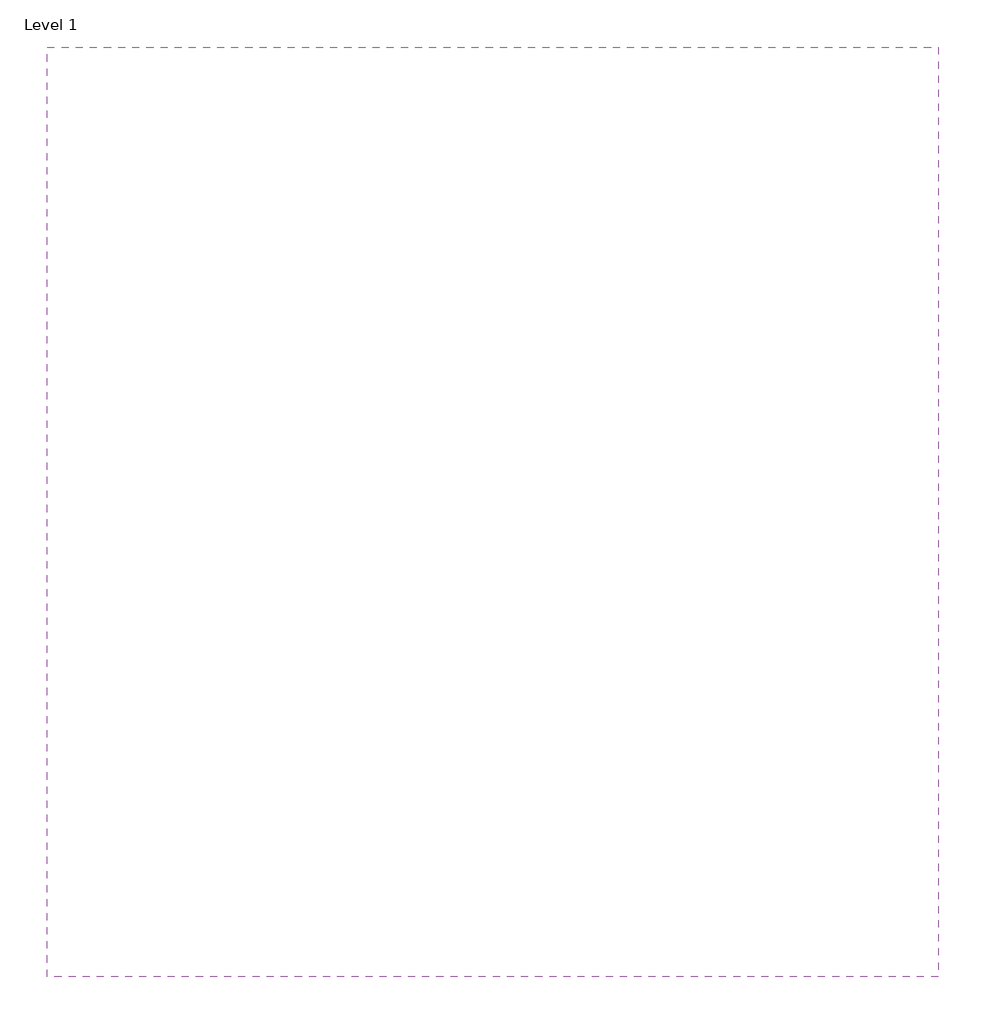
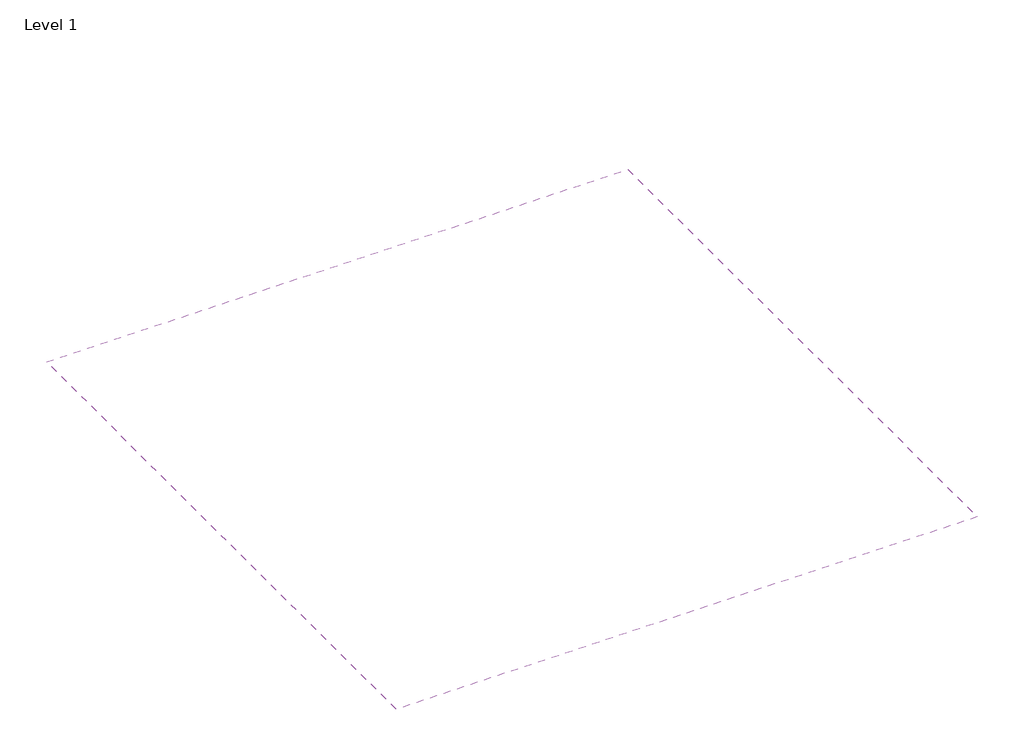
# One storey: 1 covering.
"""IFC4 building model written with IfcOpenShell, lengths in millimetres."""

import ifcopenshell
import ifcopenshell.guid

model = None  # the IFC model being written
_history = None  # IfcOwnerHistory: only IFC2X3 demands one
_inside = {}  # id of a spatial element -> (the spatial element, [elements in it])
_under = {}  # id of a project, library or spatial element -> (it, [spatial elements below it])
_declared = {}  # id of a project -> (the project, [libraries it declares])
_typed = {}  # id of a type object -> (the type object, [elements of that type])
_made_of = {}  # id of a material, layer set ... -> (it, [elements and type objects made of it])


def new_model(schema):
    """Start an empty IFC model of exactly this schema.

    Asked for "IFC4X3", IfcOpenShell would pick the latest addendum, in which some entities
    have other attributes; the version numbers below select the first issue.
    IFC2X3 requires an IfcOwnerHistory on every rooted entity: one is made here for all.
    """
    global model, _history
    if schema == "IFC4X3":
        model = ifcopenshell.file(schema_version=(4, 3, 0, 0))
    else:
        model = ifcopenshell.file(schema=schema)
    _inside.clear()
    _under.clear()
    _declared.clear()
    _typed.clear()
    _made_of.clear()
    _history = None
    if model.schema == "IFC2X3":
        org = make("IfcOrganization", Name="unknown")
        user = make(
            "IfcPersonAndOrganization",
            ThePerson=make("IfcPerson", FamilyName="unknown"),
            TheOrganization=org,
        )
        app = make(
            "IfcApplication",
            ApplicationDeveloper=org,
            Version="unknown",
            ApplicationFullName="unknown",
            ApplicationIdentifier="unknown",
        )
        _history = make(
            "IfcOwnerHistory",
            OwningUser=user,
            OwningApplication=app,
            ChangeAction="ADDED",
            CreationDate=0,
        )
    return model


def make(cls, **values):
    """One entity of the class cls with the attributes given. An attribute that is None is left unset."""
    return model.create_entity(
        cls, **{name: value for name, value in values.items() if value is not None}
    )


def rooted(cls, **values):
    """An entity with a GlobalId (a new one), such as an element, a storey or a relation."""
    return make(cls, GlobalId=ifcopenshell.guid.new(), OwnerHistory=_history, **values)


def si_unit(unit_type, name, prefix=None):
    """IfcSIUnit, for example si_unit("LENGTHUNIT", "METRE", prefix="MILLI")."""
    return make("IfcSIUnit", UnitType=unit_type, Prefix=prefix, Name=name)


def assignment(units):
    """IfcUnitAssignment: the units of a project."""
    return None if units is None else make("IfcUnitAssignment", Units=units)


def point(xyz):
    """IfcCartesianPoint."""
    return None if xyz is None else make("IfcCartesianPoint", Coordinates=xyz)


def direction(xyz):
    """IfcDirection."""
    return None if xyz is None else make("IfcDirection", DirectionRatios=xyz)


def frame(location, z_axis=None, x_axis=None):
    """IfcAxis2Placement3D, a coordinate frame: its origin and axes. An axis left out is left unset."""
    return make(
        "IfcAxis2Placement3D",
        Location=point(location),
        Axis=direction(z_axis),
        RefDirection=direction(x_axis),
    )


def origin():
    """The frame at (0, 0, 0) with its axes left unset."""
    return frame((0.0, 0.0, 0.0))


def place(relative_to, where):
    """IfcLocalPlacement: puts the frame where relative to a parent placement (None: the world)."""
    return make(
        "IfcLocalPlacement", PlacementRelTo=relative_to, RelativePlacement=where
    )


def context(
    kind, dimensions, precision=None, world=None, true_north=None, identifier=None
):
    """IfcGeometricRepresentationContext, for example the 3D "Model" context."""
    return make(
        "IfcGeometricRepresentationContext",
        ContextIdentifier=identifier,
        ContextType=kind,
        CoordinateSpaceDimension=dimensions,
        Precision=precision,
        WorldCoordinateSystem=world,
        TrueNorth=true_north,
    )


def project(units=None, contexts=None):
    """IfcProject with its units and contexts."""
    return rooted(
        "IfcProject",
        Name="project",
        RepresentationContexts=contexts,
        UnitsInContext=assignment(units),
    )


def spatial(cls, under=None, at=None, **own):
    """A site, building, storey or space (cls), placed at a placement, below another one or the project."""
    s = rooted(cls, ObjectPlacement=at, **own)
    if under is not None:
        _under.setdefault(under.id(), (under, []))[1].append(s)
    return s


def polyline(points):
    """IfcPolyline through the points."""
    return make("IfcPolyline", Points=[point(p) for p in points])


def outline(outer, holes=None, kind="AREA"):
    """IfcArbitraryClosedProfileDef: a profile drawn as a closed curve; with holes, ...WithVoids."""
    if holes is None:
        return make("IfcArbitraryClosedProfileDef", ProfileType=kind, OuterCurve=outer)
    return make(
        "IfcArbitraryProfileDefWithVoids",
        ProfileType=kind,
        OuterCurve=outer,
        InnerCurves=holes,
    )


def extrude(swept, where, along, depth):
    """IfcExtrudedAreaSolid: the profile swept, set in the frame where, extruded along a direction by depth."""
    return make(
        "IfcExtrudedAreaSolid",
        SweptArea=swept,
        Position=where,
        ExtrudedDirection=direction(along),
        Depth=depth,
    )


def shape(context_of_items, identifier, shape_type, items):
    """IfcShapeRepresentation: the items that make up one representation, for example the "Body"."""
    return make(
        "IfcShapeRepresentation",
        ContextOfItems=context_of_items,
        RepresentationIdentifier=identifier,
        RepresentationType=shape_type,
        Items=items,
    )


def made_of(thing, what):
    """Note that an element or type object is made of a material, layer set ...; save() writes the relation."""
    if what is not None:
        _made_of.setdefault(what.id(), (what, []))[1].append(thing)
    return thing


def element(
    cls,
    number,
    at=None,
    inside=None,
    cuts=None,
    type_object=None,
    material=None,
    context=None,
    identifier="Body",
    shape_type=None,
    held_by="IfcProductDefinitionShape",
    body=None,
    shapes=None,
    **own,
):
    """One element of the class cls, such as IfcWall. Its Tag is "e" and its number.

    at: its placement. inside: the storey or other place that contains it. cuts: it is an
    opening in that element (IfcRelVoidsElement). A single representation is given by context,
    identifier, shape_type and body (its items); several are given by shapes. held_by: the class
    of the entity that holds the representations. save() writes the other relations.
    """
    e = rooted(cls, Tag="e%d" % number, ObjectPlacement=at, **own)
    if body is not None:
        shapes = [shape(context, identifier, shape_type, body)]
    if shapes is not None:
        e.Representation = make(held_by, Representations=shapes)
    if inside is not None:
        _inside.setdefault(inside.id(), (inside, []))[1].append(e)
    if cuts is not None:
        rooted(
            "IfcRelVoidsElement", RelatingBuildingElement=cuts, RelatedOpeningElement=e
        )
    if type_object is not None:
        _typed.setdefault(type_object.id(), (type_object, []))[1].append(e)
    return made_of(e, material)


def aggregate(whole, parts):
    """IfcRelAggregates: a whole, such as a stair, and the parts it consists of."""
    return rooted("IfcRelAggregates", RelatingObject=whole, RelatedObjects=parts)


def save(model, path):
    """Write the relations noted so far, then the file.

    IfcRelAggregates (storeys below a building ...), IfcRelContainedInSpatialStructure (elements
    in a storey), IfcRelDefinesByType, IfcRelAssociatesMaterial and IfcRelDeclares: one each for
    every whole, place, type object, material and project.
    """
    for whole, parts in _under.values():
        aggregate(whole, parts)
    for where, things in _inside.values():
        rooted(
            "IfcRelContainedInSpatialStructure",
            RelatedElements=things,
            RelatingStructure=where,
        )
    for kind, things in _typed.values():
        rooted("IfcRelDefinesByType", RelatedObjects=things, RelatingType=kind)
    for what, things in _made_of.values():
        rooted("IfcRelAssociatesMaterial", RelatedObjects=things, RelatingMaterial=what)
    for by, libraries in _declared.values():
        rooted("IfcRelDeclares", RelatingContext=by, RelatedDefinitions=libraries)
    model.write(path)


model = new_model("IFC4")

# Units and contexts
model_context = context("Model", 3, world=origin())
ifc_project = project(units=[si_unit("LENGTHUNIT", "METRE", prefix="MILLI")], contexts=[model_context])

# Site, building, storey
site = spatial("IfcSite", under=ifc_project)
building = spatial("IfcBuilding", under=site)
storey = spatial("IfcBuildingStorey", under=building, Name="Level 1", Elevation=0.0)

# Covering
placement = place(None, origin())
element("IfcCovering", 1, ObjectType="Gyprex Vinilo 600x600 mm", at=placement, inside=storey, context=model_context, shape_type="SweptSolid", body=[
    extrude(outline(polyline([(-5115.2715037, 83.6643615), (-6055.2715037, 83.6643615), (-6055.2715037, 1063.6643615), (-5115.2715037, 1063.6643615), (-5115.2715037, 83.6643615)])), frame((0.0, 0.0, 2600.0), z_axis=(0.0, 0.0, 1.0), x_axis=(1.0, 0.0, 0.0)), (0.0, 0.0, 1.0), 210.0),
])

save(model, "model.ifc")
